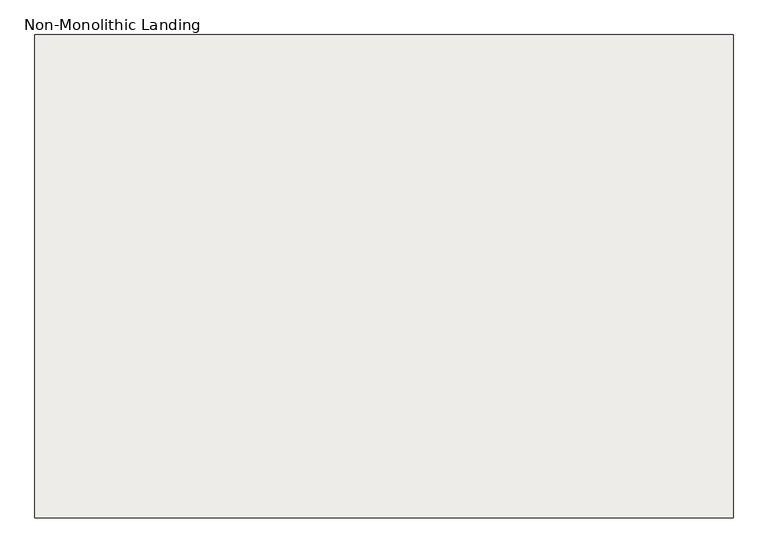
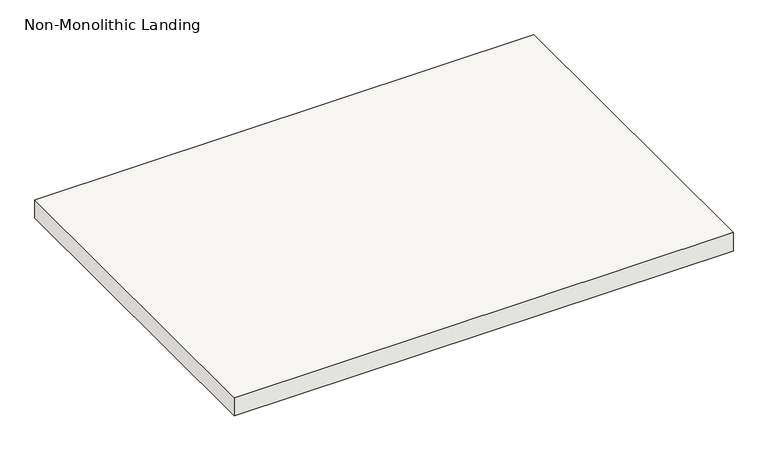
"""IFC4 building model written with IfcOpenShell, lengths in millimetres: slab geometry, Non-Monolithic Landing."""

from ifc_helpers import new_model, si_unit, frame, origin, place, context, project, spatial, polyline, outline, extrude, source, transform, mapped, element, save


def non_monolithic_landing_572fa811(model_context):
    return source(origin(), model_context, "Body", "SweptSolid", [
        extrude(outline(polyline([(87752.2048368, -17954.2990002), (89073.0048368, -17954.2990002), (89073.0048368, -18868.6990002), (87752.2048368, -18868.6990002), (87752.2048368, -17954.2990002)])), frame((0.0, 0.0, 2126.3428571), z_axis=(0.0, 0.0, 1.0), x_axis=(1.0, 0.0, 0.0)), (0.0, 0.0, 1.0), 50.8),
    ])


if __name__ == "__main__":
    model = new_model("IFC4")
    model_context = context("Model", 3, world=origin())
    ifc_project = project(units=[si_unit("LENGTHUNIT", "METRE", prefix="MILLI")], contexts=[model_context])
    site = spatial("IfcSite", under=ifc_project)
    building = spatial("IfcBuilding", under=site)
    placement = place(None, origin())
    non_monolithic_landing_shape = non_monolithic_landing_572fa811(model_context)
    element("IfcSlab", 1, ObjectType="Non-Monolithic Landing", at=placement, inside=building, context=model_context, shape_type="MappedRepresentation", body=[
        mapped(non_monolithic_landing_shape, transform((0.0, 0.0, 0.0), x_axis=(1.0, 0.0, 0.0), y_axis=(0.0, 1.0, 0.0), z_axis=(0.0, 0.0, 1.0))),
    ])
    save(model, "model.ifc")
